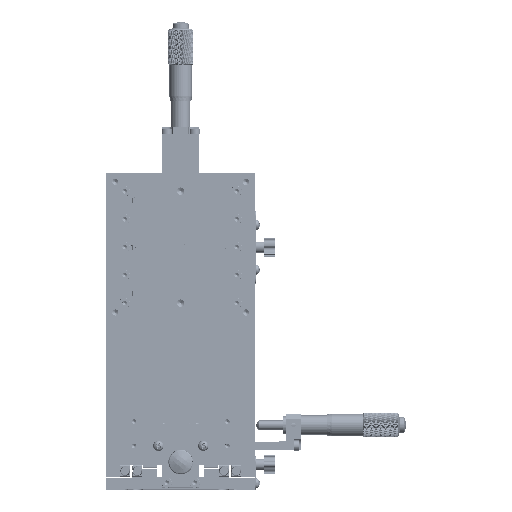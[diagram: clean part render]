
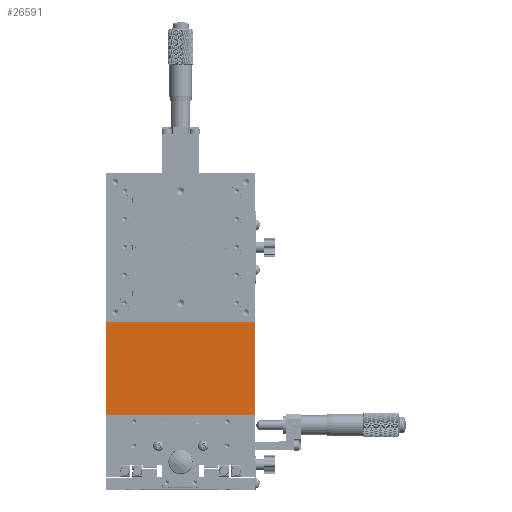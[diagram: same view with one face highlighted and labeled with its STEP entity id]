
A CAD part, top view. The second image highlights one B-rep face of the part: STEP entity #26591.
In plain terms, the highlighted planar face has unit normal (0, 0, 1) as drawn and (0, 0, -1) by its records, which use the part's own axes.
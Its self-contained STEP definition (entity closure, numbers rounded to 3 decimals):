
#493 = CIRCLE ( 'NONE', #26049, 1.65 ) ;
#1174 = VERTEX_POINT ( 'NONE', #86233 ) ;
#1193 = AXIS2_PLACEMENT_3D ( 'NONE', #62858, #22298, #69719 ) ;
#2080 = AXIS2_PLACEMENT_3D ( 'NONE', #42989, #2440, #49845 ) ;
#2249 = CARTESIAN_POINT ( 'NONE',  ( -36.65, 125., -45. ) ) ;
#2388 = DIRECTION ( 'NONE',  ( 0., 0., 1. ) ) ;
#2440 = DIRECTION ( 'NONE',  ( 0., 0., 1. ) ) ;
#2865 = AXIS2_PLACEMENT_3D ( 'NONE', #11020, #58483, #17880 ) ;
#2941 = CARTESIAN_POINT ( 'NONE',  ( -36.65, 55., -45. ) ) ;
#3786 = CARTESIAN_POINT ( 'NONE',  ( 40., 130., -45. ) ) ;
#5279 = EDGE_CURVE ( 'NONE', #57216, #18910, #82516, .T. ) ;
#7642 = EDGE_CURVE ( 'NONE', #76124, #82285, #55638, .T. ) ;
#8735 = AXIS2_PLACEMENT_3D ( 'NONE', #11327, #58790, #18188 ) ;
#9052 = DIRECTION ( 'NONE',  ( 0., 1., 0. ) ) ;
#9695 = CARTESIAN_POINT ( 'NONE',  ( 36.65, 55., -45. ) ) ;
#11020 = CARTESIAN_POINT ( 'NONE',  ( -35., 55., -45. ) ) ;
#11224 = CARTESIAN_POINT ( 'NONE',  ( 35., 125., -45. ) ) ;
#11327 = CARTESIAN_POINT ( 'NONE',  ( -35., 125., -45. ) ) ;
#12196 = ORIENTED_EDGE ( 'NONE', *, *, #28395, .T. ) ;
#13757 = CARTESIAN_POINT ( 'NONE',  ( 35., 125., -45. ) ) ;
#14636 = EDGE_CURVE ( 'NONE', #82285, #36080, #47712, .T. ) ;
#14981 = EDGE_LOOP ( 'NONE', ( #65277, #80684 ) ) ;
#16849 = CARTESIAN_POINT ( 'NONE',  ( -33.35, 125., -45. ) ) ;
#16864 = DIRECTION ( 'NONE',  ( 0., 1., 0. ) ) ;
#17662 = ORIENTED_EDGE ( 'NONE', *, *, #14636, .T. ) ;
#17798 = EDGE_CURVE ( 'NONE', #1174, #87952, #65442, .T. ) ;
#17880 = DIRECTION ( 'NONE',  ( 1., 0., 0. ) ) ;
#18084 = DIRECTION ( 'NONE',  ( 1., 0., 0. ) ) ;
#18188 = DIRECTION ( 'NONE',  ( 1., 0., 0. ) ) ;
#18280 = AXIS2_PLACEMENT_3D ( 'NONE', #38065, #85597, #44852 ) ;
#18910 = VERTEX_POINT ( 'NONE', #2249 ) ;
#20645 = DIRECTION ( 'NONE',  ( 1., 0., 0. ) ) ;
#21605 = ORIENTED_EDGE ( 'NONE', *, *, #29060, .F. ) ;
#21625 = CARTESIAN_POINT ( 'NONE',  ( -40., 0., -45. ) ) ;
#22122 = CARTESIAN_POINT ( 'NONE',  ( -40., 130., -45. ) ) ;
#22298 = DIRECTION ( 'NONE',  ( 0., 0., 1. ) ) ;
#22856 = DIRECTION ( 'NONE',  ( 0., 0., 1. ) ) ;
#24183 = LINE ( 'NONE', #49664, #39983 ) ;
#26049 = AXIS2_PLACEMENT_3D ( 'NONE', #11224, #58684, #18084 ) ;
#26591 = ADVANCED_FACE ( 'NONE', ( #65227, #49284, #31255, #47143, #29132 ), #70011, .F. ) ;
#27024 = VERTEX_POINT ( 'NONE', #71055 ) ;
#28395 = EDGE_CURVE ( 'NONE', #18910, #57216, #36334, .T. ) ;
#29060 = EDGE_CURVE ( 'NONE', #67022, #36080, #61915, .T. ) ;
#29132 = FACE_OUTER_BOUND ( 'NONE', #37245, .T. ) ;
#29683 = VECTOR ( 'NONE', #16864, 1000. ) ;
#30602 = CARTESIAN_POINT ( 'NONE',  ( 33.35, 125., -45. ) ) ;
#31058 = ORIENTED_EDGE ( 'NONE', *, *, #52211, .T. ) ;
#31255 = FACE_BOUND ( 'NONE', #76595, .T. ) ;
#31285 = DIRECTION ( 'NONE',  ( -1., 0., 0. ) ) ;
#31444 = VERTEX_POINT ( 'NONE', #60397 ) ;
#32808 = ORIENTED_EDGE ( 'NONE', *, *, #5279, .T. ) ;
#33503 = AXIS2_PLACEMENT_3D ( 'NONE', #36119, #2388, #49794 ) ;
#35018 = EDGE_LOOP ( 'NONE', ( #42281, #31058 ) ) ;
#36080 = VERTEX_POINT ( 'NONE', #22122 ) ;
#36119 = CARTESIAN_POINT ( 'NONE',  ( 40., 0., -45. ) ) ;
#36334 = CIRCLE ( 'NONE', #8735, 1.65 ) ;
#36989 = AXIS2_PLACEMENT_3D ( 'NONE', #13757, #61222, #20645 ) ;
#37245 = EDGE_LOOP ( 'NONE', ( #17662, #21605, #85812, #77880 ) ) ;
#38065 = CARTESIAN_POINT ( 'NONE',  ( 35., 55., -45. ) ) ;
#39983 = VECTOR ( 'NONE', #9052, 1000. ) ;
#40305 = CIRCLE ( 'NONE', #2865, 1.65 ) ;
#41705 = VECTOR ( 'NONE', #85093, 1000. ) ;
#42281 = ORIENTED_EDGE ( 'NONE', *, *, #82610, .T. ) ;
#42989 = CARTESIAN_POINT ( 'NONE',  ( -35., 125., -45. ) ) ;
#44852 = DIRECTION ( 'NONE',  ( 1., 0., 0. ) ) ;
#47143 = FACE_BOUND ( 'NONE', #35018, .T. ) ;
#47712 = LINE ( 'NONE', #64304, #29683 ) ;
#47988 = ORIENTED_EDGE ( 'NONE', *, *, #68216, .T. ) ;
#49284 = FACE_BOUND ( 'NONE', #14981, .T. ) ;
#49486 = AXIS2_PLACEMENT_3D ( 'NONE', #63420, #22856, #70287 ) ;
#49664 = CARTESIAN_POINT ( 'NONE',  ( 40., 0., -45. ) ) ;
#49794 = DIRECTION ( 'NONE',  ( 1., 0., 0. ) ) ;
#49845 = DIRECTION ( 'NONE',  ( 1., 0., 0. ) ) ;
#52211 = EDGE_CURVE ( 'NONE', #81704, #27024, #493, .T. ) ;
#52356 = CARTESIAN_POINT ( 'NONE',  ( 40., 130., -45. ) ) ;
#55096 = CARTESIAN_POINT ( 'NONE',  ( 40., 0., -45. ) ) ;
#55638 = LINE ( 'NONE', #78758, #71597 ) ;
#57216 = VERTEX_POINT ( 'NONE', #16849 ) ;
#58483 = DIRECTION ( 'NONE',  ( 0., 0., 1. ) ) ;
#58684 = DIRECTION ( 'NONE',  ( 0., 0., 1. ) ) ;
#58790 = DIRECTION ( 'NONE',  ( 0., 0., 1. ) ) ;
#60397 = CARTESIAN_POINT ( 'NONE',  ( -33.35, 55., -45. ) ) ;
#61222 = DIRECTION ( 'NONE',  ( 0., 0., 1. ) ) ;
#61915 = LINE ( 'NONE', #3786, #41705 ) ;
#62858 = CARTESIAN_POINT ( 'NONE',  ( -35., 55., -45. ) ) ;
#63420 = CARTESIAN_POINT ( 'NONE',  ( 35., 55., -45. ) ) ;
#64304 = CARTESIAN_POINT ( 'NONE',  ( -40., 0., -45. ) ) ;
#65227 = FACE_BOUND ( 'NONE', #65969, .T. ) ;
#65277 = ORIENTED_EDGE ( 'NONE', *, *, #81739, .T. ) ;
#65442 = CIRCLE ( 'NONE', #18280, 1.65 ) ;
#65790 = CIRCLE ( 'NONE', #1193, 1.65 ) ;
#65969 = EDGE_LOOP ( 'NONE', ( #32808, #12196 ) ) ;
#67022 = VERTEX_POINT ( 'NONE', #52356 ) ;
#68216 = EDGE_CURVE ( 'NONE', #87952, #1174, #71388, .T. ) ;
#69719 = DIRECTION ( 'NONE',  ( 1., 0., 0. ) ) ;
#69986 = CIRCLE ( 'NONE', #36989, 1.65 ) ;
#70011 = PLANE ( 'NONE',  #33503 ) ;
#70287 = DIRECTION ( 'NONE',  ( 1., 0., 0. ) ) ;
#71055 = CARTESIAN_POINT ( 'NONE',  ( 36.65, 125., -45. ) ) ;
#71388 = CIRCLE ( 'NONE', #49486, 1.65 ) ;
#71597 = VECTOR ( 'NONE', #31285, 1000. ) ;
#76124 = VERTEX_POINT ( 'NONE', #55096 ) ;
#76595 = EDGE_LOOP ( 'NONE', ( #47988, #86835 ) ) ;
#76730 = EDGE_CURVE ( 'NONE', #76124, #67022, #24183, .T. ) ;
#77880 = ORIENTED_EDGE ( 'NONE', *, *, #7642, .T. ) ;
#78758 = CARTESIAN_POINT ( 'NONE',  ( 40., 0., -45. ) ) ;
#80684 = ORIENTED_EDGE ( 'NONE', *, *, #81987, .T. ) ;
#81704 = VERTEX_POINT ( 'NONE', #30602 ) ;
#81739 = EDGE_CURVE ( 'NONE', #31444, #83984, #40305, .T. ) ;
#81987 = EDGE_CURVE ( 'NONE', #83984, #31444, #65790, .T. ) ;
#82285 = VERTEX_POINT ( 'NONE', #21625 ) ;
#82516 = CIRCLE ( 'NONE', #2080, 1.65 ) ;
#82610 = EDGE_CURVE ( 'NONE', #27024, #81704, #69986, .T. ) ;
#83984 = VERTEX_POINT ( 'NONE', #2941 ) ;
#85093 = DIRECTION ( 'NONE',  ( -1., 0., 0. ) ) ;
#85597 = DIRECTION ( 'NONE',  ( 0., 0., 1. ) ) ;
#85812 = ORIENTED_EDGE ( 'NONE', *, *, #76730, .F. ) ;
#86233 = CARTESIAN_POINT ( 'NONE',  ( 33.35, 55., -45. ) ) ;
#86835 = ORIENTED_EDGE ( 'NONE', *, *, #17798, .T. ) ;
#87952 = VERTEX_POINT ( 'NONE', #9695 ) ;
